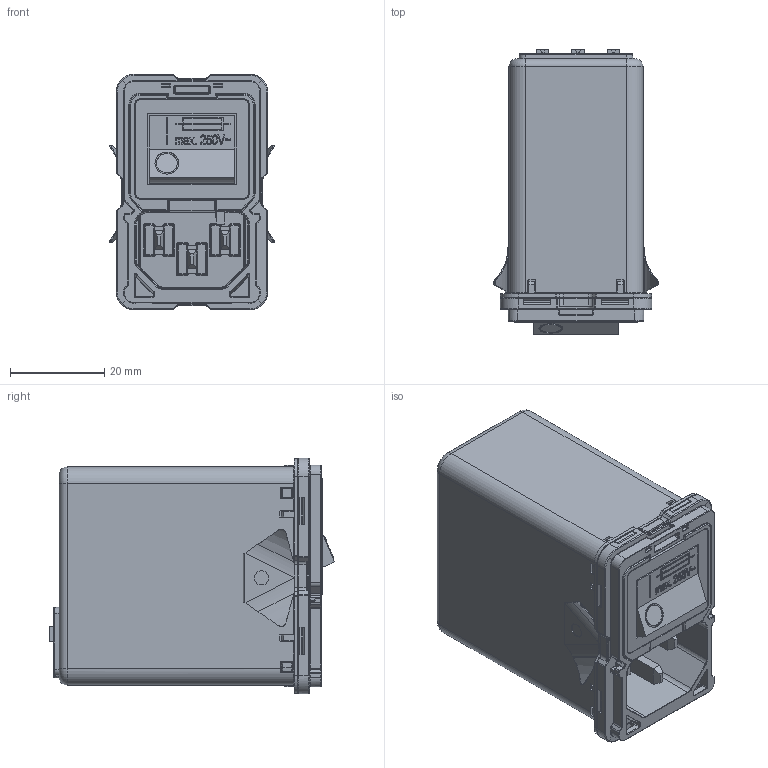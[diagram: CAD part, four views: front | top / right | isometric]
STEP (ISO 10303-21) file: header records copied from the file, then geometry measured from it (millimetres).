
FILE_DESCRIPTION((''),'2;1');
FILE_NAME('H:\02_Projects\A_Others\Z_Support\Luis\Cherry_STP\Step_Files\1 Stage\1_stage_spring_cage_horizontal_snap.stp','2012-07-26T15:10:15',('Samuel.Meier'),(''),'Autodesk Inventor 2010','Autodesk Inventor 2010','');
FILE_SCHEMA(('AUTOMOTIVE_DESIGN { 1 2 10303 214 0 1 1 1 }'));
Length unit declared in the file: millimetre
Products named in the file (1): 1_stage_spring_cage_horizontal_snap
Bounding box: 34.9 x 60.34 x 49.9 mm (x, y, z)
Surface area: 35851.2 mm2 (no closed solid volume)
Topology: 0 solids, 22 shells, 2928 faces, 7704 edges, 4755 vertices
Faces by surface type: plane 1233, cylinder 1045, bspline 460, sphere 91, torus 75, cone 24
Full cylindrical faces by diameter (mm): 0.8 x4, 1 x2, 1.1 x10, 1.2 x4, 2.7 x1, 3 x2, 3.6 x1, 4 x2, 6.5 x1, 7.2 x1, 8.2 x1
Entity records: 99449 total; most frequent: CARTESIAN_POINT 25623, ORIENTED_EDGE 15164, DIRECTION 14492, EDGE_CURVE 7582, AXIS2_PLACEMENT_3D 5025, VERTEX_POINT 4749, VECTOR 4442, LINE 4442
